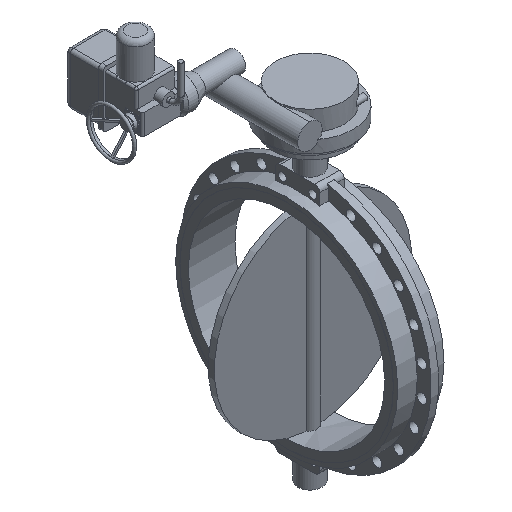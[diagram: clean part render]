
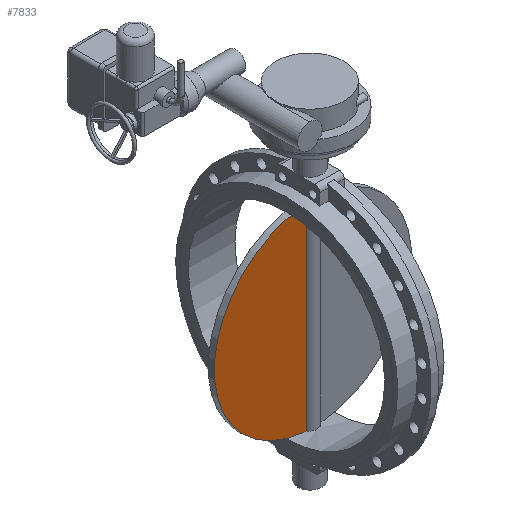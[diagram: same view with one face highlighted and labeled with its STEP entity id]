
A CAD part, isometric view. The second image highlights one B-rep face of the part: STEP entity #7833.
In plain terms, the highlighted planar face has unit normal (0, -1, 0).
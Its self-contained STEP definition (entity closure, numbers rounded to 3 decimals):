
#7833=ADVANCED_FACE('',(#15538),#15540,.T.);
#15538=FACE_BOUND('',#15539,.T.);
#15539=EDGE_LOOP('',(#20297,#20298,#20299,#20300));
#15540=PLANE('',#15541);
#15541=AXIS2_PLACEMENT_3D('',#15542,#15543,#15544);
#15542=CARTESIAN_POINT('',(0.,-12.5,0.));
#15543=DIRECTION('',(0.,-1.,0.));
#15544=DIRECTION('',(0.,0.,1.));
#20297=ORIENTED_EDGE('',*,*,#22688,.T.);
#20298=ORIENTED_EDGE('',*,*,#22671,.T.);
#20299=ORIENTED_EDGE('',*,*,#22687,.T.);
#20300=ORIENTED_EDGE('',*,*,#22685,.T.);
#22671=EDGE_CURVE('',#26635,#26632,#26636,.F.);
#22685=EDGE_CURVE('',#26649,#26661,#26663,.T.);
#22687=EDGE_CURVE('',#26632,#26649,#26665,.T.);
#22688=EDGE_CURVE('',#26661,#26635,#26666,.F.);
#26632=VERTEX_POINT('',#38121);
#26635=VERTEX_POINT('',#38159);
#26636=LINE('',#38160,#38161);
#26649=VERTEX_POINT('',#38335);
#26661=VERTEX_POINT('',#38523);
#26663=LINE('',#38556,#38557);
#26665=CIRCLE('',#38563,401.5);
#26666=LINE('',#38567,#38568);
#38121=CARTESIAN_POINT('',(-36.858,-12.5,399.805));
#38159=CARTESIAN_POINT('',(-27.272,-12.5,399.805));
#38160=CARTESIAN_POINT('',(-36.858,-12.5,399.805));
#38161=VECTOR('',#38162,1.);
#38162=DIRECTION('',(1.,0.,0.));
#38335=CARTESIAN_POINT('',(-36.858,-12.5,-399.805));
#38523=CARTESIAN_POINT('',(-27.272,-12.5,-399.805));
#38556=CARTESIAN_POINT('',(-36.858,-12.5,-399.805));
#38557=VECTOR('',#38558,1.);
#38558=DIRECTION('',(1.,0.,0.));
#38563=AXIS2_PLACEMENT_3D('',#38564,#38565,#38566);
#38564=CARTESIAN_POINT('',(0.,-12.5,0.));
#38565=DIRECTION('',(0.,-1.,0.));
#38566=DIRECTION('',(-0.092,0.,0.996));
#38567=CARTESIAN_POINT('',(-27.272,-12.5,399.805));
#38568=VECTOR('',#38569,1.);
#38569=DIRECTION('',(0.,0.,-1.));
